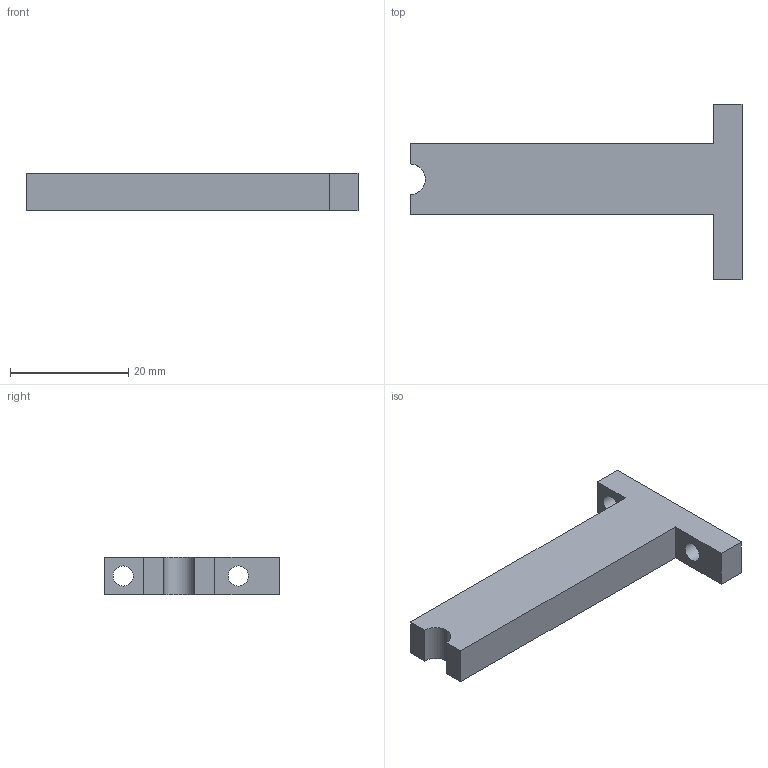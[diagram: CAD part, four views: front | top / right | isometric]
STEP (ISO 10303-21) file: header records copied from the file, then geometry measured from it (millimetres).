
FILE_DESCRIPTION(('Open CASCADE Model'),'2;1');
FILE_NAME('T_idler_pedestal','2026-11-05T16:12:19',('Author'),( 'Open CASCADE'),'Open CASCADE STEP processor 7.9','build123d', 'Unknown');
FILE_SCHEMA(('AUTOMOTIVE_DESIGN { 1 0 10303 214 1 1 1 1 }'));
Length unit declared in the file: millimetre
Products named in the file (2): T_idler_pedestal
Assembly tree (1 placements, depth 2):
  T_idler_pedestal
    T_idler_pedestal
Bounding box: 56.2 x 29.7 x 6.4 mm (x, y, z)
Volume: 4704.8 mm3; surface area: 2682.2 mm2
Topology: 1 solids, 1 shells, 14 faces, 36 edges, 24 vertices
Faces by surface type: plane 11, cylinder 3
Full cylindrical faces by diameter (mm): 3.4 x2
Entity records: 952 total; most frequent: CARTESIAN_POINT 150, DIRECTION 144, LINE 94, VECTOR 94, ORIENTED_EDGE 72, PCURVE 72, DEFINITIONAL_REPRESENTATION 72, EDGE_CURVE 36
